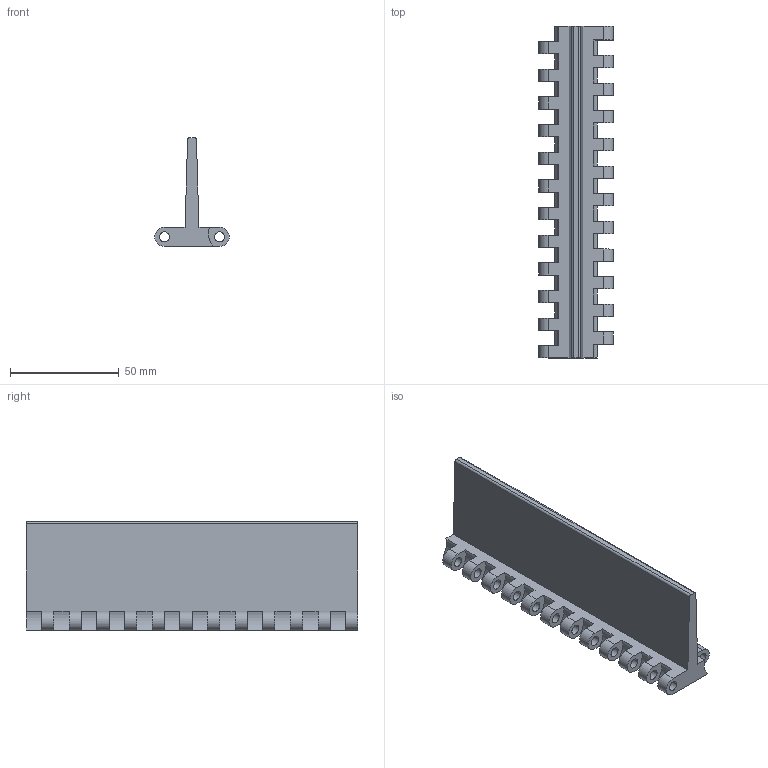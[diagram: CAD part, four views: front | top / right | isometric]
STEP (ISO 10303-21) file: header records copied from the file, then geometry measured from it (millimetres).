
FILE_DESCRIPTION(('CATIA V5 STEP Exchange'),'2;1');
FILE_NAME('C:\Users\ALI OZGUN\Desktop\alhan\TESLIMEDILEN3\939B01P01-50.stp','2017-09-21T11:52:12+00:00',('none'),('none'),'CATIA Version 5 Release 21 GA (IN-10)','CATIA V5 STEP AP203','none');
FILE_SCHEMA(('CONFIG_CONTROL_DESIGN'));
Length unit declared in the file: millimetre
Products named in the file (1): 939B01P01-50
Bounding box: 34.2 x 152.4 x 50 mm (x, y, z)
Volume: 51570.3 mm3; surface area: 30409.8 mm2
Topology: 1 solids, 1 shells, 207 faces, 582 edges, 388 vertices
Faces by surface type: cylinder 108, plane 99
Entity records: 6119 total; most frequent: ORIENTED_EDGE 1164, CARTESIAN_POINT 1067, DIRECTION 774, EDGE_CURVE 582, VERTEX_POINT 388, VECTOR 366, LINE 366, AXIS2_PLACEMENT_3D 313
